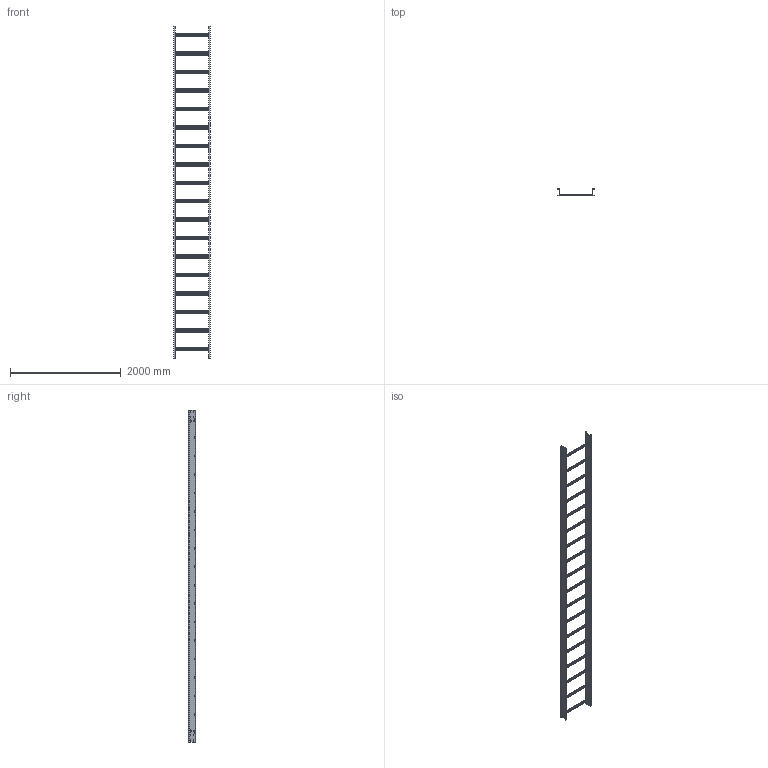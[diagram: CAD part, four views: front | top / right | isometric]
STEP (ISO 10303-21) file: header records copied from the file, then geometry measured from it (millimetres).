
FILE_DESCRIPTION (( 'STEP AP203' ), '1' );
FILE_NAME ('N3 L 600 6m.STEP', '2024-08-29T04:01:18', ( '' ), ( '' ), 'SwSTEP 2.0', 'SolidWorks 2023', '' );
FILE_SCHEMA (( 'CONFIG_CONTROL_DESIGN' ));
Length unit declared in the file: millimetre
Products named in the file (3): Ladder Rails_Nema  3 - 6m; N3 L 600 6m; Ladder Rung_Ladder Rung -  600mm
Assembly tree (20 placements, depth 2):
  N3 L 600 6m
    Ladder Rails_Nema  3 - 6m  x2
    Ladder Rung_Ladder Rung -  600mm  x18
Bounding box: 654 x 131 x 6000 mm (x, y, z)
Volume: 4790775.1 mm3; surface area: 6109269.5 mm2
Topology: 20 solids, 20 shells, 3152 faces, 8580 edges, 5512 vertices
Faces by surface type: plane 2784, cylinder 196, bspline 172
Entity records: 20179 total; most frequent: CARTESIAN_POINT 7835, ORIENTED_EDGE 2564, DIRECTION 1996, EDGE_CURVE 1282, VECTOR 1042, LINE 1042, VERTEX_POINT 836, EDGE_LOOP 560
